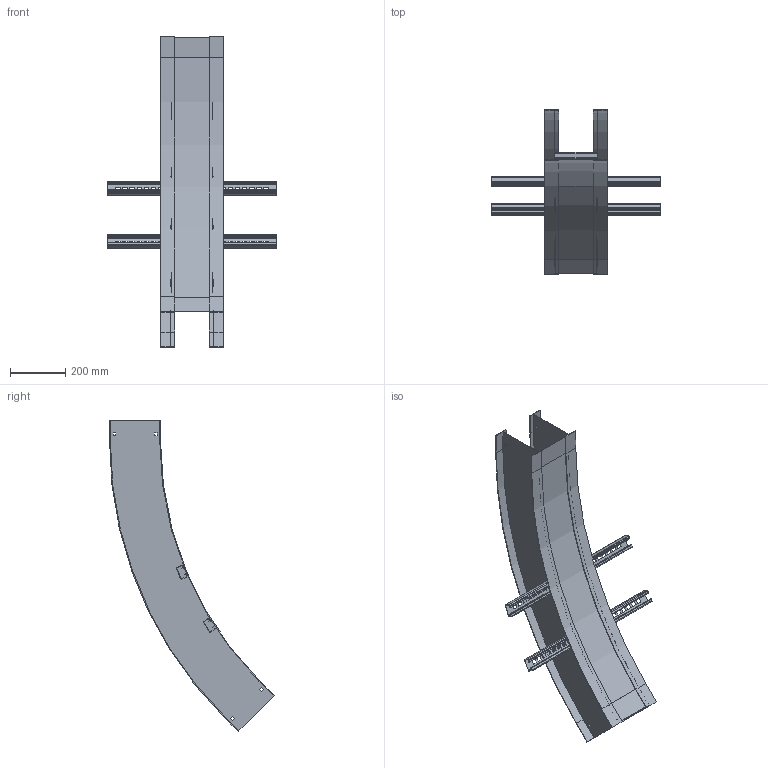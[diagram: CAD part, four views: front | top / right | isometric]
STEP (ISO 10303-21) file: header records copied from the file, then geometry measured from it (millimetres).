
FILE_DESCRIPTION((''),'2;1');
FILE_NAME('AHF706SVO4548_ASM','2010-02-02T',('erouzier'),(''),'PRO/ENGINEER BY PARAMETRIC TECHNOLOGY CORPORATION, 2008510','PRO/ENGINEER BY PARAMETRIC TECHNOLOGY CORPORATION, 2008510','');
FILE_SCHEMA(('CONFIG_CONTROL_DESIGN'));
Length unit declared in the file: inch
Products named in the file (5): CDS001658_7_45_48; CDS002159L6; CDS002159L24-P; ED04591_45_48_6; AHF706SVO4548_ASM
Assembly tree (8 placements, depth 2):
  AHF706SVO4548_ASM
    CDS001658_7_45_48  x2
    CDS002159L6  x3
    CDS002159L24-P  x2
    ED04591_45_48_6
Bounding box: 609.6 x 594.87 x 1122.22 mm (x, y, z)
Volume: 2128114 mm3; surface area: 2050720.2 mm2
Topology: 8 solids, 8 shells, 600 faces, 1744 edges, 1160 vertices
Faces by surface type: plane 355, cylinder 245
Entity records: 9895 total; most frequent: CARTESIAN_POINT 1709, DIRECTION 1690, ORIENTED_EDGE 1688, EDGE_CURVE 844, VECTOR 608, LINE 608, VERTEX_POINT 560, AXIS2_PLACEMENT_3D 541
